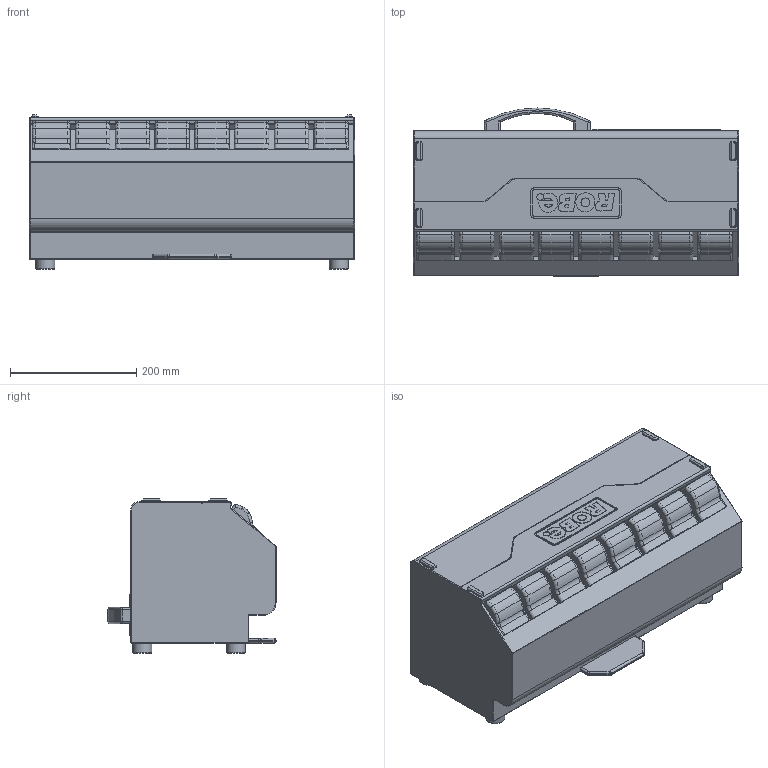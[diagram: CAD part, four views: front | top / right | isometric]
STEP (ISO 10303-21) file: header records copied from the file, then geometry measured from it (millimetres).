
FILE_DESCRIPTION(/* description */ ('Unknown'),/* implementation_level */ '2;1');
FILE_NAME(/* name */ '3D_T31 Slim',/* time_stamp */ '2024-11-29T12:04:05+01:00',/* author */ ('Unknown'),/* organization */ ('Unknown'),/* preprocessor_version */ 'ST-DEVELOPER v19.4',/* originating_system */ 'Solid Edge',/* authorisation */ 'Unknown');
FILE_SCHEMA (('AUTOMOTIVE_DESIGN {1 0 10303 214 3 1 1}'));
Length unit declared in the file: millimetre
Products named in the file (1): 3D T31 Slim
Bounding box: 515 x 266.15 x 244 mm (x, y, z)
Volume: 24292229.6 mm3; surface area: 591790.4 mm2
Topology: 1 solids, 1 shells, 483 faces, 1259 edges, 795 vertices
Faces by surface type: plane 175, cylinder 128, bspline 116, torus 42, cone 16, sphere 6
Full cylindrical faces by diameter (mm): 10.524 x1, 30 x4
Entity records: 17197 total; most frequent: CARTESIAN_POINT 6456, ORIENTED_EDGE 2480, DIRECTION 1831, EDGE_CURVE 1240, VERTEX_POINT 791, AXIS2_PLACEMENT_3D 628, LINE 575, VECTOR 575
